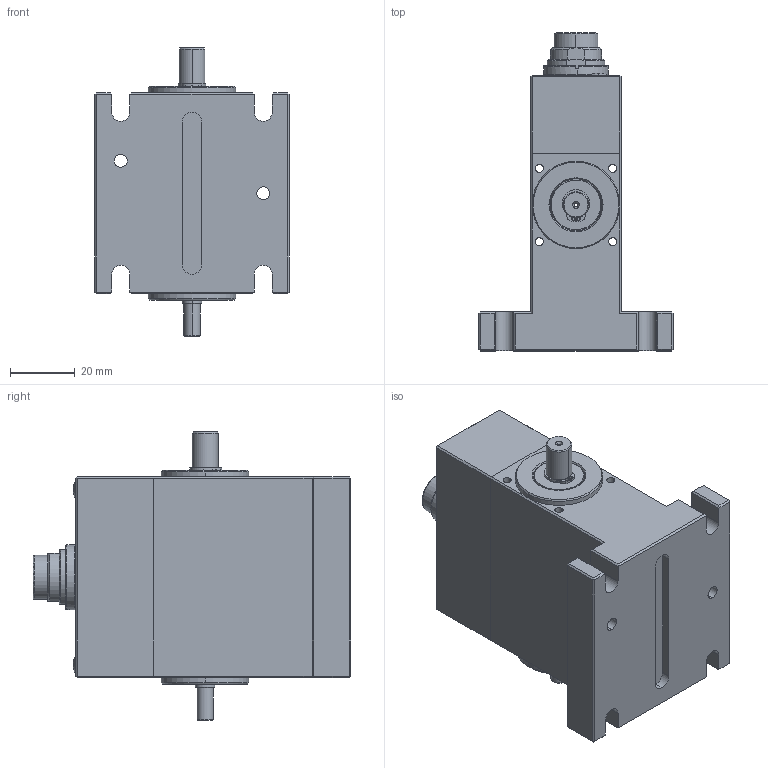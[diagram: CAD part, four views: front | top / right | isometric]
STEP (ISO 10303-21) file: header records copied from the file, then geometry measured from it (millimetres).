
FILE_DESCRIPTION (( 'STEP AP214' ), '1' );
FILE_NAME ('DRVL-I-0,05-1-F.STEP', '2023-01-31T12:51:24', ( '' ), ( '' ), 'SwSTEP 2.0', 'SolidWorks 2023', '' );
FILE_SCHEMA (( 'AUTOMOTIVE_DESIGN' ));
Length unit declared in the file: millimetre
Products named in the file (1): DRVL-I-0,05-1-F
Bounding box: 60 x 98.1 x 89 mm (x, y, z)
Surface area: 28396.6 mm2 (no closed solid volume)
Topology: 0 solids, 15 shells, 335 faces, 910 edges, 589 vertices
Faces by surface type: plane 142, cylinder 102, cone 50, torus 35, sphere 6
Entity records: 14328 total; most frequent: CARTESIAN_POINT 1982, DIRECTION 1979, ORIENTED_EDGE 1585, EDGE_CURVE 910, AXIS2_PLACEMENT_3D 765, VERTEX_POINT 589, LINE 449, VECTOR 449
